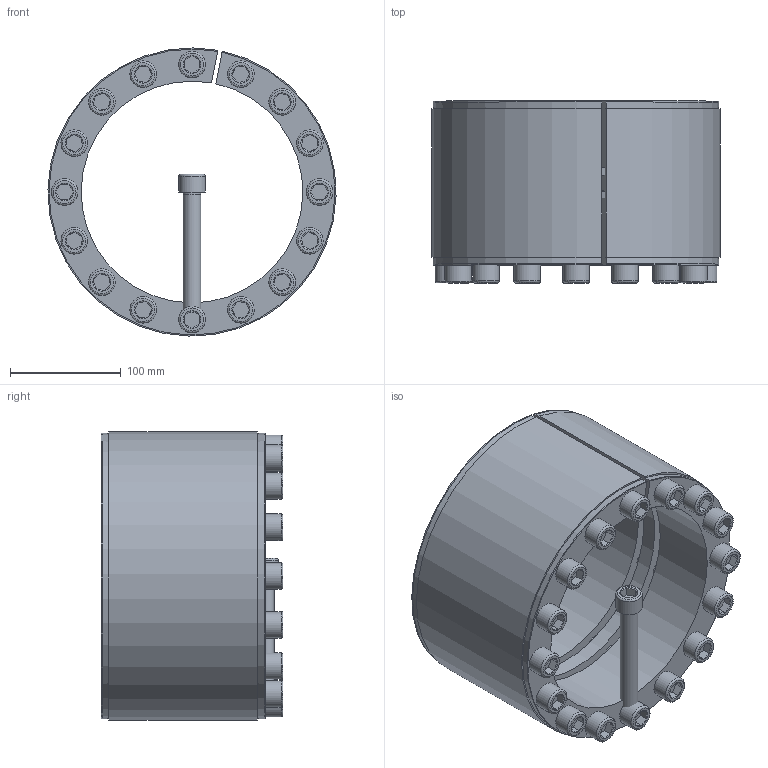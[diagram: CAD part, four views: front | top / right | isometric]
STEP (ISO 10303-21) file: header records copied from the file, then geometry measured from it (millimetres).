
FILE_DESCRIPTION( ( 'Unknown' ), '1' );
FILE_NAME( 'C:/Dokumente und Einstellungen/Sven/Desktop/homepage/cad - homepage/KBS11/KBS 11 - 200 x 260.stp', 'Unknown', ( 'Unknown' ), ( 'Unknown' ), 'XStep 1.0', 'Unknown', ' ' );
FILE_SCHEMA( ( 'automotive_design' ) );
Length unit declared in the file: millimetre
Products named in the file (3): Assem1; KBS 11 - 200 x 260; ISO EN DIN 4762 M16x110
Bounding box: 259.93 x 164 x 259.96 mm (x, y, z)
Volume: 5489889.5 mm3; surface area: 983308.6 mm2
Topology: 19 solids, 19 shells, 561 faces, 1189 edges, 734 vertices
Faces by surface type: plane 224, cylinder 176, cone 127, torus 34
Full cylindrical faces by diameter (mm): 13 x17, 16 x130, 24 x17
Entity records: 3550 total; most frequent: CARTESIAN_POINT 541, DIRECTION 524, ORIENTED_EDGE 370, EDGE_LOOP 248, AXIS2_PLACEMENT_3D 242, EDGE_CURVE 185, VERTEX_POINT 155, FACE_OUTER_BOUND 147
